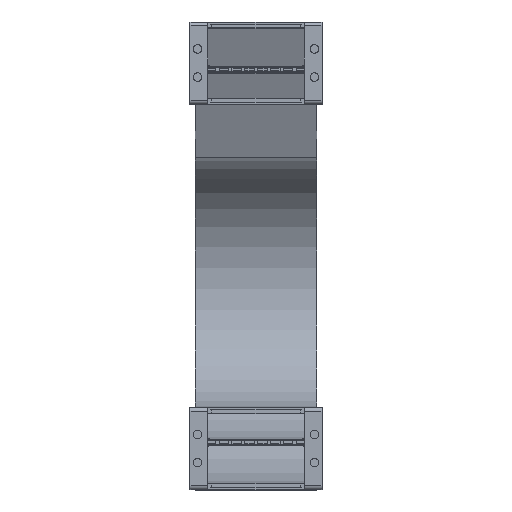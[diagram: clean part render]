
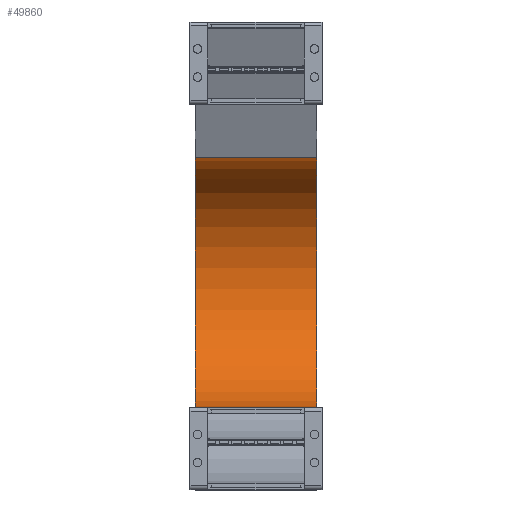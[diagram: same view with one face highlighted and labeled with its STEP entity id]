
A CAD part, top view. The second image highlights one B-rep face of the part: STEP entity #49860.
In plain terms, the highlighted cylindrical face has radius 98 mm (diameter 196 mm), a partial arc.
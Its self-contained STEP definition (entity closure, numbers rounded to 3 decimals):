
#49012=DIRECTION('',(-1.,0.,0.));
#49013=VECTOR('',#49012,95.);
#49014=CARTESIAN_POINT('',(47.5,64.,-500.));
#49015=LINE('',#49014,#49013);
#49026=DIRECTION('',(-1.,0.,0.));
#49027=VECTOR('',#49026,95.);
#49028=CARTESIAN_POINT('',(47.5,259.505,-509.842));
#49029=LINE('',#49028,#49027);
#49033=CARTESIAN_POINT('',(47.5,162.,-500.));
#49034=DIRECTION('',(-1.,0.,0.));
#49035=DIRECTION('',(0.,0.995,-0.1));
#49036=AXIS2_PLACEMENT_3D('',#49033,#49034,#49035);
#49112=CARTESIAN_POINT('',(-47.5,162.,-500.));
#49113=DIRECTION('',(-1.,0.,0.));
#49114=DIRECTION('',(0.,0.995,-0.1));
#49115=AXIS2_PLACEMENT_3D('',#49112,#49113,#49114);
#49234=CARTESIAN_POINT('',(47.5,259.505,-509.842));
#49235=CARTESIAN_POINT('',(-47.5,259.505,-509.842));
#49236=VERTEX_POINT('',#49234);
#49237=VERTEX_POINT('',#49235);
#49258=CARTESIAN_POINT('',(47.5,64.,-500.));
#49259=CARTESIAN_POINT('',(-47.5,64.,-500.));
#49260=VERTEX_POINT('',#49258);
#49261=VERTEX_POINT('',#49259);
#49846=CARTESIAN_POINT('',(1.,162.,-500.));
#49847=DIRECTION('',(-1.,0.,0.));
#49848=DIRECTION('',(0.,-0.995,0.1));
#49849=AXIS2_PLACEMENT_3D('',#49846,#49847,#49848);
#49850=CYLINDRICAL_SURFACE('',#49849,98.);
#49852=ORIENTED_EDGE('',*,*,#49851,.F.);
#49854=ORIENTED_EDGE('',*,*,#49853,.T.);
#49855=ORIENTED_EDGE('',*,*,#49829,.T.);
#49857=ORIENTED_EDGE('',*,*,#49856,.F.);
#49858=EDGE_LOOP('',(#49852,#49854,#49855,#49857));
#49859=FACE_OUTER_BOUND('',#49858,.F.);
#49037=CIRCLE('',#49036,98.);
#49116=CIRCLE('',#49115,98.);
#49829=EDGE_CURVE('',#49260,#49261,#49015,.T.);
#49851=EDGE_CURVE('',#49236,#49237,#49029,.T.);
#49853=EDGE_CURVE('',#49236,#49260,#49037,.T.);
#49856=EDGE_CURVE('',#49237,#49261,#49116,.T.);
#49860=ADVANCED_FACE('',(#49859),#49850,.F.);
